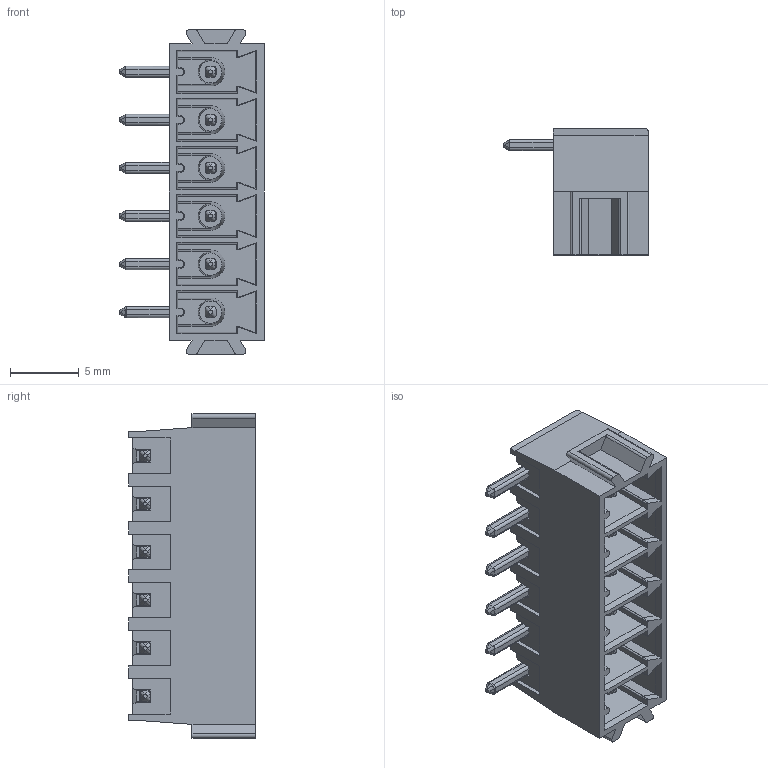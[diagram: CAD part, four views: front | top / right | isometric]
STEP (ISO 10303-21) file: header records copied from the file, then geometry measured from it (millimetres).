
FILE_DESCRIPTION (( 'STEP AP214' ), '1' );
FILE_NAME ('110-M-211-06.STEP', '2007-11-01T18:28:31', ( 'weco' ), ( 'weco' ), 'SwSTEP 2.0', 'SolidWorks 2007', '' );
FILE_SCHEMA (( 'AUTOMOTIVE_DESIGN' ));
Length unit declared in the file: millimetre
Products named in the file (1): 110-M-211-06
Bounding box: 10.5 x 9.2 x 23.6 mm (x, y, z)
Volume: 596.6 mm3; surface area: 2098.9 mm2
Topology: 1 solids, 1 shells, 1175 faces, 3284 edges, 2099 vertices
Faces by surface type: plane 800, cylinder 297, bspline 38, cone 32, sphere 8
Entity records: 39471 total; most frequent: CARTESIAN_POINT 11634, ORIENTED_EDGE 6544, DIRECTION 4619, EDGE_CURVE 3272, VERTEX_POINT 2099, LINE 2051, VECTOR 2051, AXIS2_PLACEMENT_3D 1284
